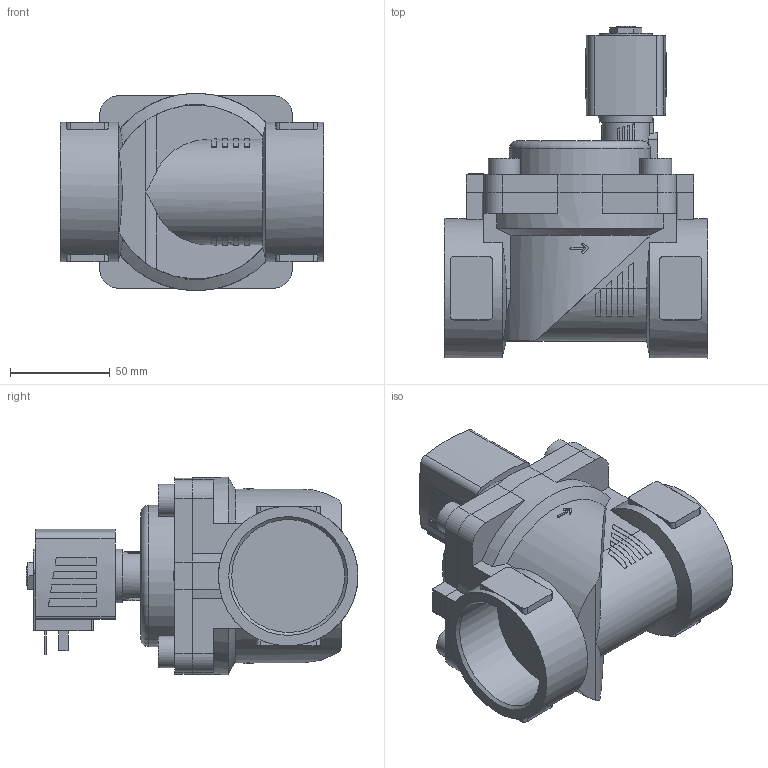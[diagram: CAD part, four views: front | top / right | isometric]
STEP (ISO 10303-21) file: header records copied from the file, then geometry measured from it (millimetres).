
FILE_DESCRIPTION(/* description */ ('STEP AP214'),/* implementation_level */ '2;1');
FILE_NAME(/* name */ '6281-295762-2_2-Way_Solenoid_Valve__Servo-assisted__General_Purpose',/* time_stamp */ '2024-09-04T13:31:32+02:00',/* author */ ('License CC BY-ND 4.0'),/* organization */ ('CADENAS'),/* preprocessor_version */ 'ST-DEVELOPER v19.3',/* originating_system */ 'PARTsolutions',/* authorisation */ ' ');
FILE_SCHEMA (('AUTOMOTIVE_DESIGN {1 0 10303 214 3 1 1}'));
Length unit declared in the file: millimetre
Products named in the file (4): 6281-295762-2/2-Way Solenoid Valve, Servo-assisted, General Purpose; 5281ev400MS2/2-Wege-Magnetventil mit Servomembran-Deckel 99 ; 6213-40G2MS-Gehaeuse-; AC10ex-6NA38-Plan-Coil
Assembly tree (3 placements, depth 2):
  6281-295762-2/2-Way Solenoid Valve, Servo-assisted, General Purpose
    5281ev400MS2/2-Wege-Magnetventil mit Servomembran-Deckel 99 
    6213-40G2MS-Gehaeuse-
    AC10ex-6NA38-Plan-Coil
Bounding box: 132 x 166.5 x 99 mm (x, y, z)
Volume: 749682.6 mm3; surface area: 104597.6 mm2
Topology: 3 solids, 3 shells, 346 faces, 907 edges, 599 vertices
Faces by surface type: plane 237, cylinder 95, cone 13, torus 1
Full cylindrical faces by diameter (mm): 2.013 x1, 9.74 x1, 16 x4, 27 x1, 56.656 x2, 70 x2
Entity records: 11916 total; most frequent: CARTESIAN_POINT 2099, ORIENTED_EDGE 1768, DIRECTION 1760, EDGE_CURVE 884, AXIS2_PLACEMENT_3D 596, VERTEX_POINT 591, LINE 568, VECTOR 568
